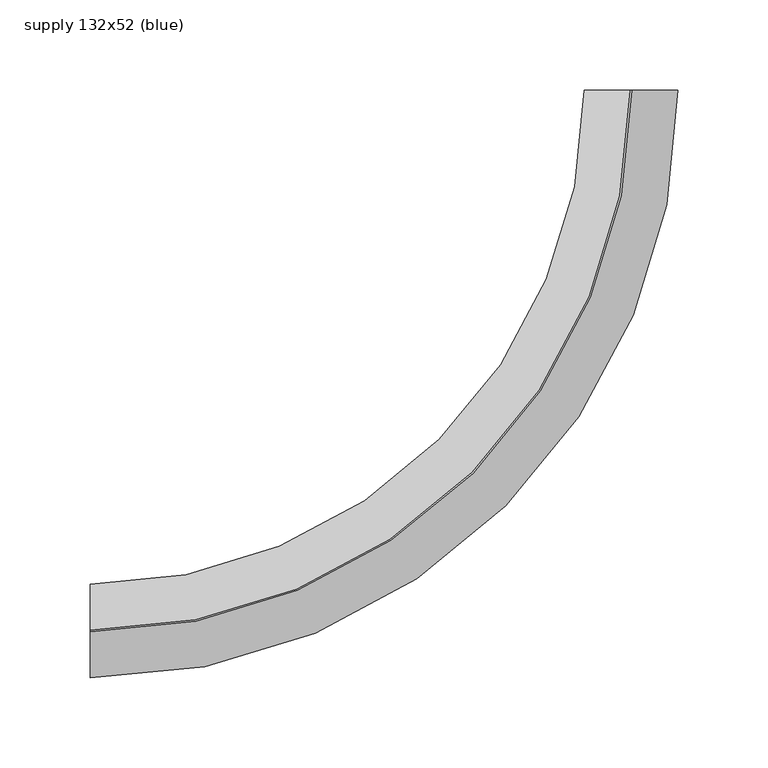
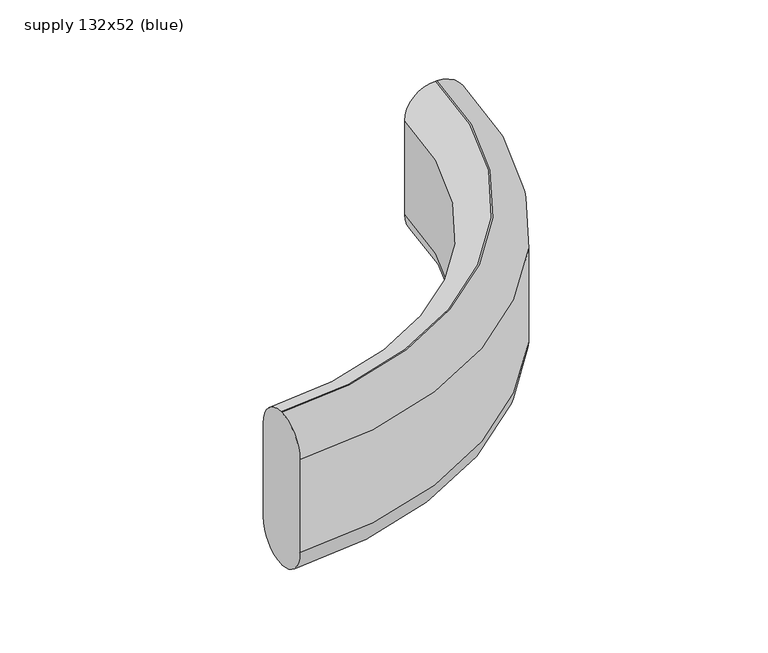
"""IFC4 building model written with IfcOpenShell, lengths in millimetres: duct segment geometry, NLRS_57_DUF_UN_Hybalans flexbend oval_M&G : supply 132x52 (blue)."""

from ifc_helpers import new_model, si_unit, point, frame, origin, place, context, project, spatial, polyline, circle_curve, ellipse_curve, trimmed, source, transform, mapped, element, save
from ifc_brep_helpers import plane_surface, cylinder_surface, revolved_surface, advanced_brep


def supply_132x52_blue_a913f8ed(model_context):
    return source(origin(), model_context, "Body", "AdvancedBrep", [
        advanced_brep(
        [(-300.0, -0.4, 66.0), (-300.0, 0.4, 66.0), (-300.0, 26.0, 40.4), (-300.0, 26.0, -40.4), (-300.0, 0.4, -66.0), (-300.0, -0.4, -66.0), (-300.0, -26.0, -40.4), (-300.0, -26.0, 40.4), (0.4, 300.0, 66.0), (26.0, 300.0, 40.4), (26.0, 300.0, -40.4), (0.4, 300.0, -66.0), (-0.4, 300.0, -66.0), (-26.0, 300.0, -40.4), (-26.0, 300.0, 40.4), (-0.4, 300.0, 66.0)],
        [
            (0, 1),
            (1, 2, circle_curve(frame((-300.0, 0.4, 40.4), z_axis=(-1.0, 0.0, 0.0), x_axis=(0.0, 1.0, 0.0)), 25.6)),
            (2, 3),
            (3, 4, circle_curve(frame((-300.0, 0.4, -40.4), z_axis=(-1.0, 0.0, 0.0), x_axis=(0.0, 1.0, 0.0)), 25.6)),
            (4, 5),
            (5, 6, circle_curve(frame((-300.0, -0.4, -40.4), z_axis=(-1.0, 0.0, 0.0), x_axis=(0.0, 1.0, 0.0)), 25.6)),
            (6, 7),
            (7, 0, circle_curve(frame((-300.0, -0.4, 40.4), z_axis=(-1.0, 0.0, 0.0), x_axis=(0.0, 1.0, 0.0)), 25.6)),
            (8, 9, circle_curve(frame((0.4, 300.0, 40.4), z_axis=(0.0, 1.0, 0.0), x_axis=(-1.0, 0.0, 0.0)), 25.6)),
            (9, 10),
            (10, 11, circle_curve(frame((0.4, 300.0, -40.4), z_axis=(0.0, 1.0, 0.0), x_axis=(-1.0, 0.0, 0.0)), 25.6)),
            (11, 12),
            (12, 13, circle_curve(frame((-0.4, 300.0, -40.4), z_axis=(0.0, 1.0, 0.0), x_axis=(-1.0, 0.0, 0.0)), 25.6)),
            (13, 14),
            (14, 15, circle_curve(frame((-0.4, 300.0, 40.4), z_axis=(0.0, 1.0, 0.0), x_axis=(-1.0, 0.0, 0.0)), 25.6)),
            (15, 8),
            (15, 1, circle_curve(frame((-300.0, 300.0, 66.0), z_axis=(0.0, 0.0, -1.0), x_axis=(0.0, -1.0, 0.0)), 299.6)),
            (0, 8, circle_curve(frame((-300.0, 300.0, 66.0), z_axis=(0.0, 0.0, 1.0), x_axis=(0.0, -1.0, 0.0)), 300.4)),
            (14, 2, circle_curve(frame((-300.0, 300.0, 40.4), z_axis=(0.0, 0.0, -1.0), x_axis=(0.0, -1.0, 0.0)), 274.0)),
            (13, 3, circle_curve(frame((-300.0, 300.0, -40.4), z_axis=(0.0, 0.0, -1.0), x_axis=(0.0, -1.0, 0.0)), 274.0)),
            (12, 4, circle_curve(frame((-300.0, 300.0, -66.0), z_axis=(0.0, 0.0, -1.0), x_axis=(0.0, -1.0, 0.0)), 299.6)),
            (11, 5, circle_curve(frame((-300.0, 300.0, -66.0), z_axis=(0.0, 0.0, -1.0), x_axis=(0.0, -1.0, 0.0)), 300.4)),
            (10, 6, circle_curve(frame((-300.0, 300.0, -40.4), z_axis=(0.0, 0.0, -1.0), x_axis=(0.0, -1.0, 0.0)), 326.0)),
            (9, 7, circle_curve(frame((-300.0, 300.0, 40.4), z_axis=(0.0, 0.0, -1.0), x_axis=(0.0, -1.0, 0.0)), 326.0)),
        ],
        [
            plane_surface(frame((-300.0, 0.0, 0.0), z_axis=(-1.0, 0.0, 0.0), x_axis=(0.0, 0.0, 1.0))),
            plane_surface(frame((0.0, 300.0, 0.0), z_axis=(0.0, 1.0, 0.0), x_axis=(0.0, 0.0, 1.0))),
            plane_surface(frame((-300.0, 300.0, 66.0), z_axis=(0.0, 0.0, 1.0), x_axis=(0.0, -1.0, 0.0))),
            revolved_surface(trimmed(ellipse_curve(frame((-300.0, 0.4, 40.4), z_axis=(-1.0, 0.0, 0.0), x_axis=(0.0, 1.0, 0.0)), 25.6, 25.6), [point((-300.0, 0.4, 66.0))], [point((-300.0, 26.0, 40.4))], True, "CARTESIAN"), (-300.0, 300.0, 0.0), (0.0, 0.0, 1.0)),
            revolved_surface(polyline([(-300.0, 26.0, 40.4), (-300.0, 26.0, -40.4)]), (-300.0, 300.0, 0.0), (0.0, 0.0, 1.0)),
            revolved_surface(trimmed(ellipse_curve(frame((-300.0, 0.4, -40.4), z_axis=(-1.0, 0.0, 0.0), x_axis=(0.0, 1.0, 0.0)), 25.6, 25.6), [point((-300.0, 26.0, -40.4))], [point((-300.0, 0.4, -66.0))], True, "CARTESIAN"), (-300.0, 300.0, 0.0), (0.0, 0.0, 1.0)),
            plane_surface(frame((-300.0, 300.0, -66.0), z_axis=(0.0, 0.0, -1.0), x_axis=(0.0, -1.0, 0.0))),
            revolved_surface(trimmed(ellipse_curve(frame((-300.0, -0.4, -40.4), z_axis=(-1.0, 0.0, 0.0), x_axis=(0.0, 1.0, 0.0)), 25.6, 25.6), [point((-300.0, -0.4, -66.0))], [point((-300.0, -26.0, -40.4))], True, "CARTESIAN"), (-300.0, 300.0, 0.0), (0.0, 0.0, 1.0)),
            cylinder_surface(frame((-300.0, 300.0, 0.0), z_axis=(0.0, 0.0, 1.0), x_axis=(0.0, -1.0, 0.0)), 326.0),
            revolved_surface(trimmed(ellipse_curve(frame((-300.0, -0.4, 40.4), z_axis=(-1.0, 0.0, 0.0), x_axis=(0.0, 1.0, 0.0)), 25.6, 25.6), [point((-300.0, -26.0, 40.4))], [point((-300.0, -0.4, 66.0))], True, "CARTESIAN"), (-300.0, 300.0, 0.0), (0.0, 0.0, 1.0)),
        ],
        [
            (0, [[1, 2, 3, 4, 5, 6, 7, 8]]),
            (1, [[9, 10, 11, 12, 13, 14, 15, 16]]),
            (2, [[17, -1, 18, -16]]),
            (3, [[19, -2, -17, -15]]),
            (4, [[20, -3, -19, -14]]),
            (5, [[21, -4, -20, -13]]),
            (6, [[22, -5, -21, -12]]),
            (7, [[23, -6, -22, -11]]),
            (8, [[24, -7, -23, -10]]),
            (9, [[-18, -8, -24, -9]]),
        ],
    ),
    ])


if __name__ == "__main__":
    model = new_model("IFC4")
    model_context = context("Model", 3, world=origin())
    ifc_project = project(units=[si_unit("LENGTHUNIT", "METRE", prefix="MILLI")], contexts=[model_context])
    site = spatial("IfcSite", under=ifc_project)
    building = spatial("IfcBuilding", under=site)
    placement = place(None, origin())
    supply_132x52_blue_shape = supply_132x52_blue_a913f8ed(model_context)
    element("IfcDuctSegment", 1, ObjectType="NLRS_57_DUF_UN_Hybalans flexbend oval_M&G : supply 132x52 (blue)", at=placement, inside=building, context=model_context, shape_type="MappedRepresentation", body=[
        mapped(supply_132x52_blue_shape, transform((0.0, 0.0, 0.0), x_axis=(1.0, 0.0, 0.0), y_axis=(0.0, 1.0, 0.0), z_axis=(0.0, 0.0, 1.0))),
    ])
    save(model, "model.ifc")
